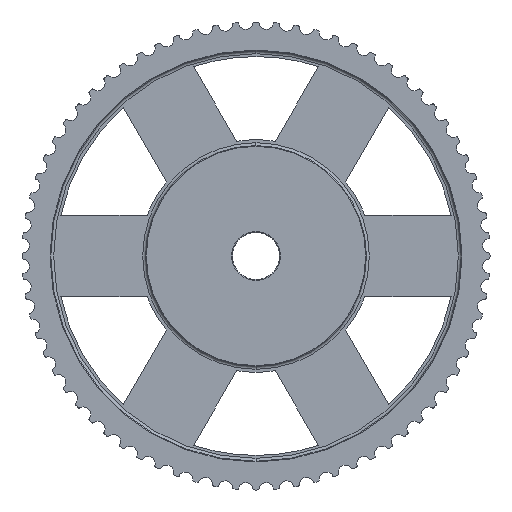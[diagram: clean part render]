
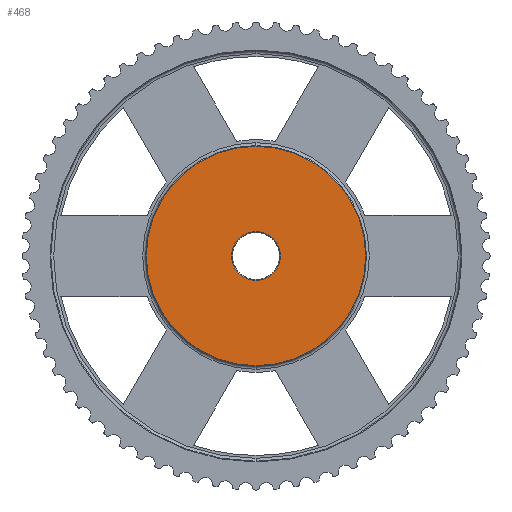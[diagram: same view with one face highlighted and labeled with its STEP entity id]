
A CAD part, left-side view. The second image highlights one B-rep face of the part: STEP entity #468.
In plain terms, the highlighted planar face has unit normal (-1, 0, 0).
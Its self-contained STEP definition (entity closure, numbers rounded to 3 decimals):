
#468=ADVANCED_FACE('',(#1331,#1332),#1333,.T.);
#1331=FACE_BOUND('',#2197,.T.);
#1332=FACE_OUTER_BOUND('',#2198,.T.);
#1333=PLANE('',#2199);
#2197=EDGE_LOOP('',(#5945,#5946));
#2198=EDGE_LOOP('',(#5947,#5948));
#2199=AXIS2_PLACEMENT_3D('',#5949,#5950,#5951);
#5945=ORIENTED_EDGE('',*,*,#6030,.T.);
#5946=ORIENTED_EDGE('',*,*,#6036,.T.);
#5947=ORIENTED_EDGE('',*,*,#7198,.T.);
#5948=ORIENTED_EDGE('',*,*,#5969,.T.);
#5949=CARTESIAN_POINT('',(0.0,0.0,0.0));
#5950=DIRECTION('',(-1.0,0.0,0.0));
#5951=DIRECTION('',(0.0,0.0,1.0));
#5969=EDGE_CURVE('',#7221,#7218,#7222,.T.);
#6030=EDGE_CURVE('',#7330,#7332,#7334,.T.);
#6036=EDGE_CURVE('',#7332,#7330,#7342,.T.);
#7198=EDGE_CURVE('',#7218,#7221,#9264,.T.);
#7218=VERTEX_POINT('',#9288);
#7221=VERTEX_POINT('',#9292);
#7222=CIRCLE('',#9293,74.5);
#7330=VERTEX_POINT('',#9422);
#7332=VERTEX_POINT('',#9425);
#7334=CIRCLE('',#9428,16.5);
#7342=CIRCLE('',#9438,16.5);
#9264=CIRCLE('',#11764,74.5);
#9288=CARTESIAN_POINT('',(0.0,74.5,0.0));
#9292=CARTESIAN_POINT('',(0.0,-74.5,0.));
#9293=AXIS2_PLACEMENT_3D('',#11787,#11788,#11789);
#9422=CARTESIAN_POINT('',(0.0,16.5,0.0));
#9425=CARTESIAN_POINT('',(0.0,-16.5,0.));
#9428=AXIS2_PLACEMENT_3D('',#11924,#11925,#11926);
#9438=AXIS2_PLACEMENT_3D('',#11938,#11939,#11940);
#11764=AXIS2_PLACEMENT_3D('',#14616,#14617,#14618);
#11787=CARTESIAN_POINT('',(0.0,0.0,0.));
#11788=DIRECTION('',(-1.0,0.0,0.0));
#11789=DIRECTION('',(0.0,1.0,0.0));
#11924=CARTESIAN_POINT('',(0.0,0.0,0.0));
#11925=DIRECTION('',(1.0,0.0,0.0));
#11926=DIRECTION('',(0.0,1.0,0.0));
#11938=CARTESIAN_POINT('',(0.0,0.0,0.0));
#11939=DIRECTION('',(1.0,0.0,0.0));
#11940=DIRECTION('',(0.0,1.0,0.0));
#14616=CARTESIAN_POINT('',(0.0,0.0,0.));
#14617=DIRECTION('',(-1.0,0.0,0.0));
#14618=DIRECTION('',(0.0,1.0,0.0));
